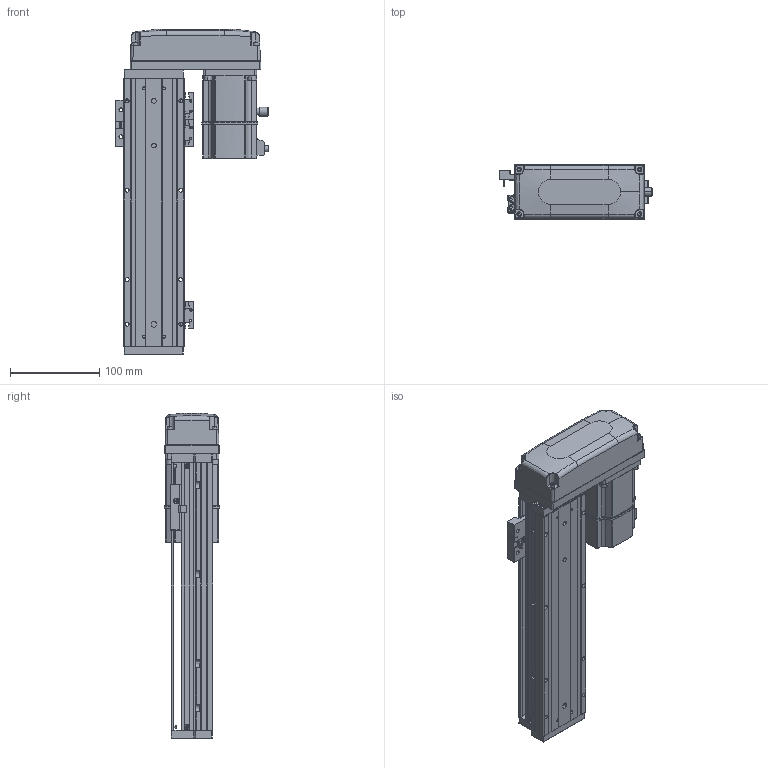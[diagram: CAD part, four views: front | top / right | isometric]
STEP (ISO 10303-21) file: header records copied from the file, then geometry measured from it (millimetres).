
FILE_DESCRIPTION (( 'STEP AP203' ), '1' );
FILE_NAME ('KTHA60-200-BL-M20-C4L.step', '2022-12-16T01:31:37', ( '微软用户' ), ( '微软中国' ), 'SwSTEP 2.0', 'SolidWorks 2020', '' );
FILE_SCHEMA (( 'CONFIG_CONTROL_DESIGN' ));
Length unit declared in the file: millimetre
Products named in the file (17): GBT 70.3-M3℅6; CTHA60-016; EE_SX911P_R; KTHA60-002; CTHA60-017; BTH80-026; KTHA60-001_300; CTHA60-021; CTHA60-006-2_CTHA60-006-2; KTHA60-004; GBT 70.1-M4×16; _X2_4E0983F1_X0_200W_1; KTHA60-005; GBT77-2000M3-3; KTHA60-200-BL-M20-C4L; GB¨uT 70.2-M3¡Á5_M3¡Á6; GBT 70.1-M3℅6
Assembly tree (51 placements, depth 2):
  KTHA60-200-BL-M20-C4L
    KTHA60-001_300
    KTHA60-004
    KTHA60-005
    GB¨uT 70.2-M3¡Á5_M3¡Á6  x6
    GBT 70.3-M3℅6  x4
    EE_SX911P_R  x3
    CTHA60-017  x3
    CTHA60-021  x2
    GBT 70.1-M4×16  x8
    GBT77-2000M3-3  x6
    GBT 70.1-M3℅6  x10
    CTHA60-016  x2
    KTHA60-002
    BTH80-026
    CTHA60-006-2_CTHA60-006-2
    _X2_4E0983F1_X0_200W_1
Bounding box: 172.1 x 62.42 x 364 mm (x, y, z)
Volume: 1023068 mm3; surface area: 269962.6 mm2
Topology: 54 solids, 54 shells, 2388 faces, 5661 edges, 3478 vertices
Faces by surface type: plane 1261, cylinder 632, cone 278, bspline 109, torus 92, sphere 16
Entity records: 43594 total; most frequent: CARTESIAN_POINT 10258, ORIENTED_EDGE 6370, DIRECTION 6368, EDGE_CURVE 3185, AXIS2_PLACEMENT_3D 2207, VERTEX_POINT 1987, LINE 1954, VECTOR 1954
